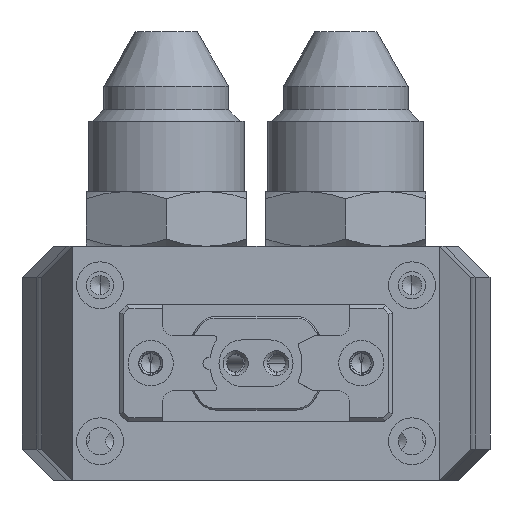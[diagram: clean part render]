
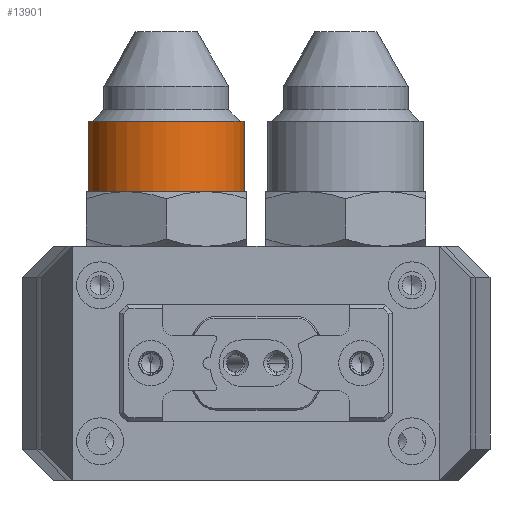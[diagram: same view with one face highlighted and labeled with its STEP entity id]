
A CAD part, front view. The second image highlights one B-rep face of the part: STEP entity #13901.
In plain terms, the highlighted cylindrical face has radius 10 mm (diameter 20 mm), a partial arc.
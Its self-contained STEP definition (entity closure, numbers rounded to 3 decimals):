
#1242 = CARTESIAN_POINT ( 'NONE',  ( -54.138, -105.91, 1020.602 ) ) ;
#1568 = FACE_OUTER_BOUND ( 'NONE', #8439, .T. ) ;
#1860 = DIRECTION ( 'NONE',  ( -1., 0., 0. ) ) ;
#4882 = DIRECTION ( 'NONE',  ( 0., 0., 1. ) ) ;
#6000 = CARTESIAN_POINT ( 'NONE',  ( -74.138, -105.91, 1020.602 ) ) ;
#8228 = AXIS2_PLACEMENT_3D ( 'NONE', #32947, #28612, #33806 ) ;
#8439 = EDGE_LOOP ( 'NONE', ( #48639, #40619, #34626, #10174 ) ) ;
#10174 = ORIENTED_EDGE ( 'NONE', *, *, #48554, .F. ) ;
#12446 = VECTOR ( 'NONE', #16331, 1000. ) ;
#13901 = ADVANCED_FACE ( 'NONE', ( #1568 ), #41406, .T. ) ;
#15539 = CARTESIAN_POINT ( 'NONE',  ( -74.138, -105.91, 1051.875 ) ) ;
#16331 = DIRECTION ( 'NONE',  ( 0., 0., 1. ) ) ;
#17302 = VERTEX_POINT ( 'NONE', #24408 ) ;
#19210 = CARTESIAN_POINT ( 'NONE',  ( -64.138, -105.91, 1051.875 ) ) ;
#20662 = LINE ( 'NONE', #55833, #12446 ) ;
#23002 = CIRCLE ( 'NONE', #8228, 10. ) ;
#23727 = AXIS2_PLACEMENT_3D ( 'NONE', #19210, #45170, #1860 ) ;
#24408 = CARTESIAN_POINT ( 'NONE',  ( -74.138, -105.91, 1029.602 ) ) ;
#26859 = CARTESIAN_POINT ( 'NONE',  ( -64.138, -105.91, 1020.602 ) ) ;
#28478 = VERTEX_POINT ( 'NONE', #6000 ) ;
#28612 = DIRECTION ( 'NONE',  ( 0., 0., -1. ) ) ;
#32947 = CARTESIAN_POINT ( 'NONE',  ( -64.138, -105.91, 1029.602 ) ) ;
#33806 = DIRECTION ( 'NONE',  ( -1., 0., 0. ) ) ;
#34626 = ORIENTED_EDGE ( 'NONE', *, *, #45321, .T. ) ;
#34897 = EDGE_CURVE ( 'NONE', #28478, #38842, #56176, .T. ) ;
#36636 = DIRECTION ( 'NONE',  ( 0., 0., 1. ) ) ;
#38842 = VERTEX_POINT ( 'NONE', #1242 ) ;
#40109 = DIRECTION ( 'NONE',  ( -1., 0., 0. ) ) ;
#40619 = ORIENTED_EDGE ( 'NONE', *, *, #49161, .T. ) ;
#41406 = CYLINDRICAL_SURFACE ( 'NONE', #23727, 10. ) ;
#44647 = VECTOR ( 'NONE', #36636, 1000. ) ;
#45170 = DIRECTION ( 'NONE',  ( 0., 0., 1. ) ) ;
#45321 = EDGE_CURVE ( 'NONE', #45852, #17302, #23002, .T. ) ;
#45822 = LINE ( 'NONE', #15539, #44647 ) ;
#45852 = VERTEX_POINT ( 'NONE', #48402 ) ;
#48402 = CARTESIAN_POINT ( 'NONE',  ( -54.138, -105.91, 1029.602 ) ) ;
#48554 = EDGE_CURVE ( 'NONE', #28478, #17302, #45822, .T. ) ;
#48639 = ORIENTED_EDGE ( 'NONE', *, *, #34897, .T. ) ;
#49161 = EDGE_CURVE ( 'NONE', #38842, #45852, #20662, .T. ) ;
#50659 = AXIS2_PLACEMENT_3D ( 'NONE', #26859, #4882, #40109 ) ;
#55833 = CARTESIAN_POINT ( 'NONE',  ( -54.138, -105.91, 1051.875 ) ) ;
#56176 = CIRCLE ( 'NONE', #50659, 10. ) ;
